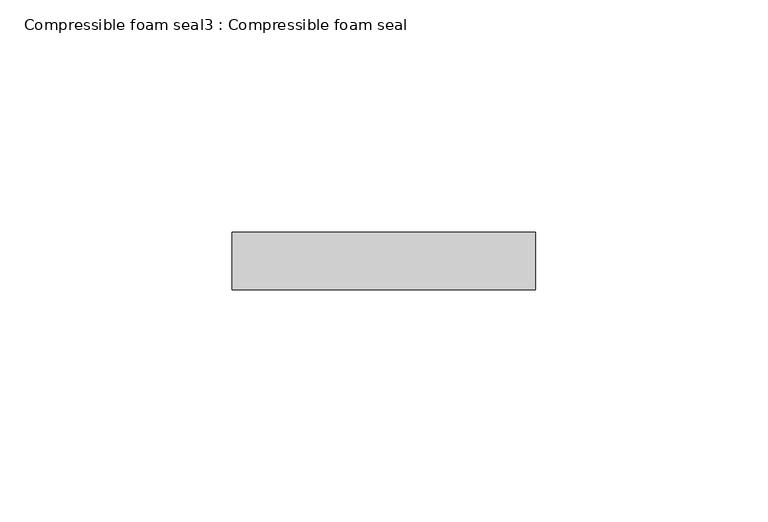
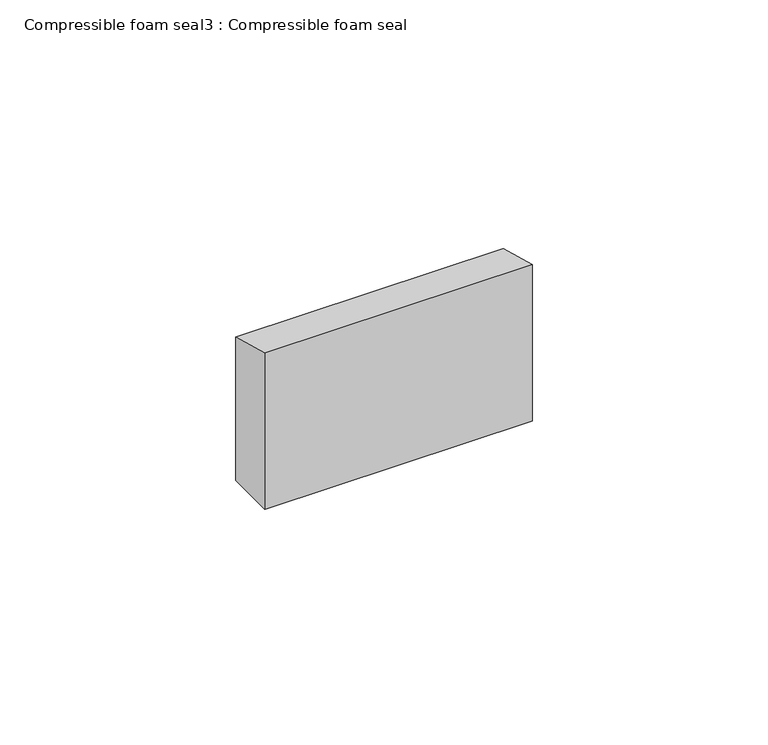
"""IFC4 building model written with IfcOpenShell, lengths in millimetres: proxy geometry, Compressible foam seal3 : Compressible foam seal."""

from ifc_helpers import new_model, si_unit, frame, origin, place, context, project, spatial, polyline, outline, extrude, source, transform, mapped, element, save


def compressible_foam_seal3_compressible_foam_seal_00045a2d(model_context):
    return source(origin(), model_context, "Body", "SweptSolid", [
        extrude(outline(polyline([(-26537.7085055, 306.4551735), (-26525.3073445, 303.1322924), (-26525.3073445, 265.9589997), (-26537.7085055, 265.9589997), (-26537.7085055, 306.4551735)])), frame((16282.2722679, 0.0, 0.0), z_axis=(1.0, 0.0, 0.0), x_axis=(0.0, 1.0, 0.0)), (0.0, 0.0, 1.0), 65.4852948),
    ])


if __name__ == "__main__":
    model = new_model("IFC4")
    model_context = context("Model", 3, world=origin())
    ifc_project = project(units=[si_unit("LENGTHUNIT", "METRE", prefix="MILLI")], contexts=[model_context])
    site = spatial("IfcSite", under=ifc_project)
    building = spatial("IfcBuilding", under=site)
    placement = place(None, origin())
    compressible_foam_seal3_compressible_foam_seal_shape = compressible_foam_seal3_compressible_foam_seal_00045a2d(model_context)
    element("IfcBuildingElementProxy", 1, Name="Compressible foam seal3 : Compressible foam seal", ObjectType="Compressible foam seal3 : Compressible foam seal", at=placement, inside=building, context=model_context, shape_type="MappedRepresentation", body=[
        mapped(compressible_foam_seal3_compressible_foam_seal_shape, transform((0.0, 0.0, 0.0), x_axis=(1.0, 0.0, 0.0), y_axis=(0.0, 1.0, 0.0), z_axis=(0.0, 0.0, 1.0))),
    ])
    save(model, "model.ifc")
